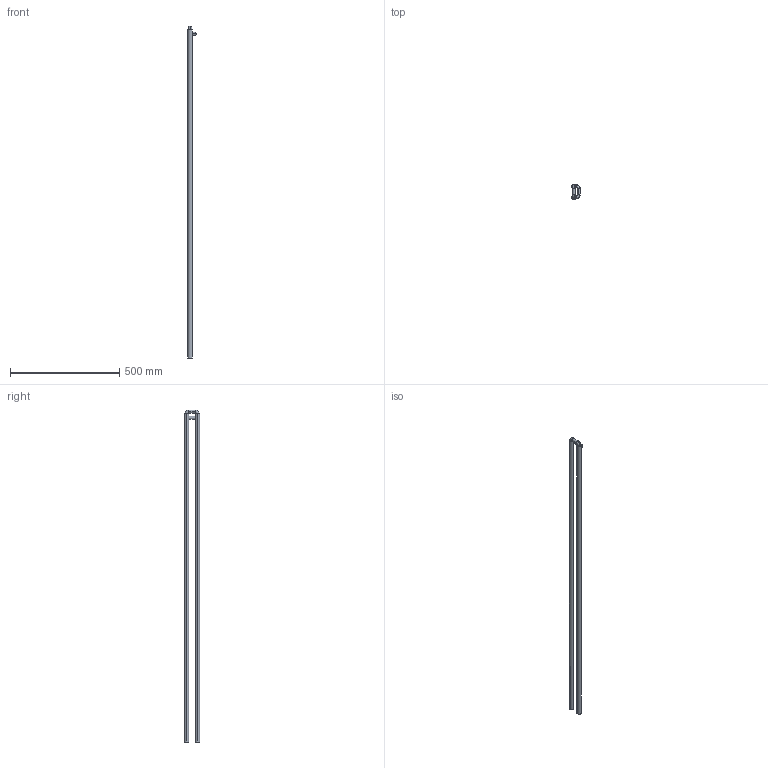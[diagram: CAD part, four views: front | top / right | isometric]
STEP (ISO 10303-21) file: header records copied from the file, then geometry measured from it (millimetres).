
FILE_DESCRIPTION(('STEP AP214'),'1');
FILE_NAME('wymiennik step.stp','2020-11-05T12:48:11',(' '),(' '),'Spatial InterOp 3D',' ',' ');
FILE_SCHEMA(('AUTOMOTIVE_DESIGN { 1 0 10303 214 1 1 1 1 }'));
Length unit declared in the file: metre
Products named in the file (5): wymiennik step; wymiennik; wewFluid; rura; zewFluid
Assembly tree (4 placements, depth 2):
  wymiennik step
    wymiennik
    wewFluid
    rura
    zewFluid
Bounding box: 37.12 x 70 x 1517.5 mm (x, y, z)
Volume: 961796.1 mm3; surface area: 727468.3 mm2
Topology: 3 solids, 3 shells, 56 faces, 151 edges, 104 vertices
Faces by surface type: cylinder 32, torus 16, plane 8
Entity records: 2138 total; most frequent: CARTESIAN_POINT 472, DIRECTION 377, ORIENTED_EDGE 296, AXIS2_PLACEMENT_3D 171, EDGE_CURVE 148, CIRCLE 110, VERTEX_POINT 98, EDGE_LOOP 62
